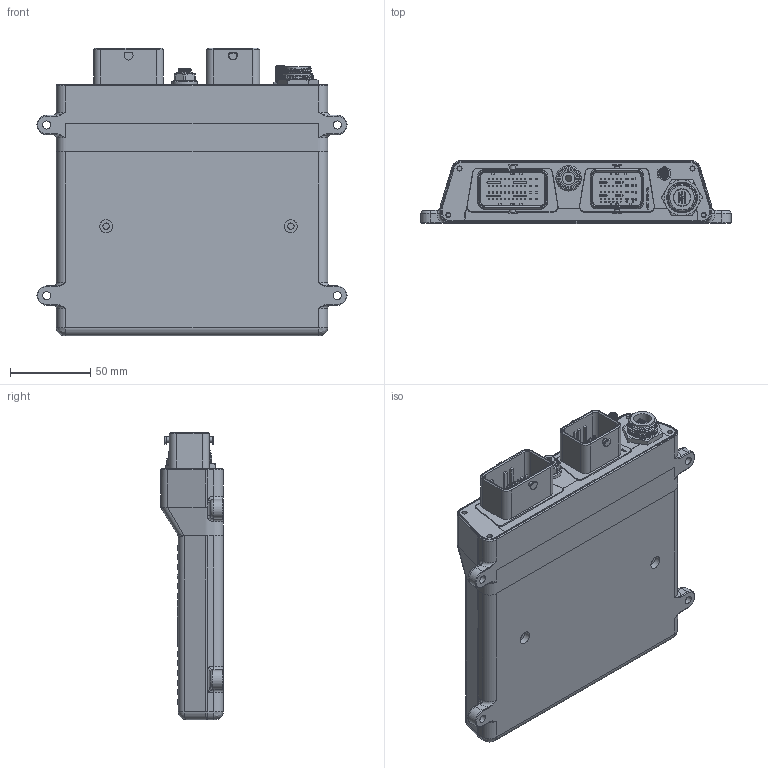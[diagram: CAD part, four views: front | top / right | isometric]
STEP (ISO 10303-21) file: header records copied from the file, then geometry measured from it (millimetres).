
FILE_DESCRIPTION(/* description */ (''),/* implementation_level */ '2;1');
FILE_NAME(/* name */ 'C:/Users/behr0/Desktop/MaxxECU RACE H2O export v1.step',/* time_stamp */ '2019-02-26T21:22:27+01:00',/* author */ ('behr00@gmail.com'),/* organization */ (''),/* preprocessor_version */ 'ST-DEVELOPER v17.2',/* originating_system */ 'Autodesk Translation Framework v7.6.0.251',/* authorisation */ '');
FILE_SCHEMA (('AUTOMOTIVE_DESIGN { 1 0 10303 214 3 1 1 }'));
Products named in the file (20): MaxxECU RACE H2O export; MaxxECU S8 box rev0 2016-11-04 v2; MaxxECU S8 box rev0 2016-11-04 v10; Component1397; MaxxECU S8 box rev0 2016-11-04 v10 (1); MaxxECUV2 PCB1 v6; MAXXECUV2_03272017_07-08-55; Parts; CMC32; CMC48; PX0446; px0446_1; px0446_1_1; px0446_2; px0446_3; px0446_4; 3116 04 00; 3116_04_00; 3116_04_00_1; 732510360 v1
Assembly tree (19 placements, depth 5):
  MaxxECU RACE H2O export
    MaxxECU S8 box rev0 2016-11-04 v2
    MaxxECU S8 box rev0 2016-11-04 v10
      Component1397
    MaxxECU S8 box rev0 2016-11-04 v10 (1)
    MaxxECUV2 PCB1 v6
      MAXXECUV2_03272017_07-08-55
        Parts
          CMC32
          CMC48
    PX0446
      px0446_1
        px0446_1_1
        px0446_2
        px0446_3
        px0446_4
    3116 04 00
      3116_04_00
        3116_04_00_1
    732510360 v1
Bounding box: 193 x 39 x 178.92 mm (x, y, z)
Volume: 259522.5 mm3; surface area: 185647.3 mm2
Topology: 11 solids, 11 shells, 5916 faces, 16017 edges, 10372 vertices
Faces by surface type: plane 3710, cylinder 1584, torus 336, bspline 173, cone 93, sphere 20
Full cylindrical faces by diameter (mm): 0.75 x5, 0.965 x2, 1 x5, 1.295 x2, 2 x4, 2.5 x4, 3.2 x4, 3.4 x4, 3.886 x1, 3.912 x2, 4 x3, 4.644 x2, 5 x4, 5.2 x2, 5.359 x2, 5.489 x5, 6 x2, 6.257 x4, 6.4 x1, 7 x1, 8 x6, 8.1 x2, 8.5 x1, 9.036 x3, 10 x2, 10.147 x2, 10.85 x1, 11 x1, 12 x1, 15.38 x2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
Entity records: 220351 total; most frequent: CARTESIAN_POINT 69526, ORIENTED_EDGE 31956, DIRECTION 30573, EDGE_CURVE 15978, LINE 11369, VECTOR 11369, VERTEX_POINT 10372, AXIS2_PLACEMENT_3D 9602
